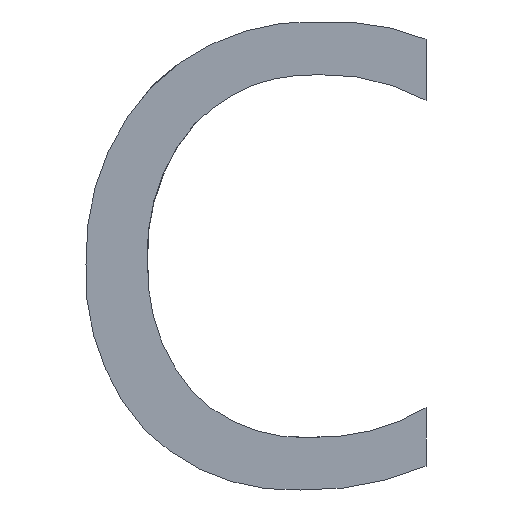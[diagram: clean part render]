
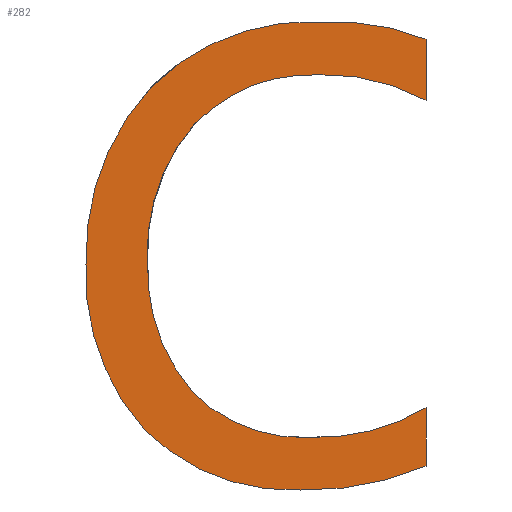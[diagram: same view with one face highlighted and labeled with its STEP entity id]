
A CAD part, front view. The second image highlights one B-rep face of the part: STEP entity #282.
In plain terms, the highlighted planar face has unit normal (0, -1, 0).
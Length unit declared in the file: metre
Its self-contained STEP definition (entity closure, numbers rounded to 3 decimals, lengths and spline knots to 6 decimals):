
#36=LINE('',#570,#44);
#37=LINE('',#584,#45);
#44=VECTOR('',#480,1.);
#45=VECTOR('',#493,1.);
#64=ORIENTED_EDGE('',*,*,#148,.T.);
#65=ORIENTED_EDGE('',*,*,#149,.T.);
#66=ORIENTED_EDGE('',*,*,#150,.T.);
#67=ORIENTED_EDGE('',*,*,#151,.T.);
#68=ORIENTED_EDGE('',*,*,#152,.T.);
#69=ORIENTED_EDGE('',*,*,#153,.T.);
#70=ORIENTED_EDGE('',*,*,#154,.T.);
#71=ORIENTED_EDGE('',*,*,#155,.T.);
#72=ORIENTED_EDGE('',*,*,#156,.T.);
#73=ORIENTED_EDGE('',*,*,#157,.T.);
#74=ORIENTED_EDGE('',*,*,#158,.T.);
#75=ORIENTED_EDGE('',*,*,#159,.T.);
#76=ORIENTED_EDGE('',*,*,#160,.T.);
#77=ORIENTED_EDGE('',*,*,#161,.T.);
#148=EDGE_CURVE('',#190,#191,#216,.T.);
#149=EDGE_CURVE('',#191,#192,#36,.T.);
#150=EDGE_CURVE('',#192,#193,#217,.T.);
#151=EDGE_CURVE('',#193,#194,#218,.T.);
#152=EDGE_CURVE('',#194,#195,#219,.T.);
#153=EDGE_CURVE('',#195,#196,#220,.F.);
#154=EDGE_CURVE('',#196,#197,#221,.T.);
#155=EDGE_CURVE('',#197,#198,#222,.T.);
#156=EDGE_CURVE('',#198,#199,#37,.T.);
#157=EDGE_CURVE('',#199,#200,#223,.T.);
#158=EDGE_CURVE('',#200,#201,#224,.T.);
#159=EDGE_CURVE('',#201,#202,#225,.T.);
#160=EDGE_CURVE('',#202,#203,#226,.T.);
#161=EDGE_CURVE('',#203,#190,#227,.T.);
#190=VERTEX_POINT('',#568);
#191=VERTEX_POINT('',#569);
#192=VERTEX_POINT('',#571);
#193=VERTEX_POINT('',#573);
#194=VERTEX_POINT('',#575);
#195=VERTEX_POINT('',#577);
#196=VERTEX_POINT('',#579);
#197=VERTEX_POINT('',#581);
#198=VERTEX_POINT('',#583);
#199=VERTEX_POINT('',#585);
#200=VERTEX_POINT('',#587);
#201=VERTEX_POINT('',#589);
#202=VERTEX_POINT('',#591);
#203=VERTEX_POINT('',#593);
#216=CIRCLE('',#420,0.000133);
#217=CIRCLE('',#421,0.000088);
#218=CIRCLE('',#422,0.000068);
#219=CIRCLE('',#423,0.000079);
#220=CIRCLE('',#424,0.000088);
#221=CIRCLE('',#425,0.000066);
#222=CIRCLE('',#426,0.000095);
#223=CIRCLE('',#427,0.000098);
#224=CIRCLE('',#428,0.000099);
#225=CIRCLE('',#429,0.000103);
#226=CIRCLE('',#430,0.000105);
#227=CIRCLE('',#431,0.000088);
#229=EDGE_LOOP('',(#64,#65,#66,#67,#68,#69,#70,#71,#72,#73,#74,#75,#76,
#77));
#245=FACE_BOUND('',#229,.T.);
#261=PLANE('',#419);
#282=ADVANCED_FACE('',(#245),#261,.T.);
#419=AXIS2_PLACEMENT_3D('',#566,#476,#477);
#420=AXIS2_PLACEMENT_3D('',#567,#478,#479);
#421=AXIS2_PLACEMENT_3D('',#572,#481,#482);
#422=AXIS2_PLACEMENT_3D('',#574,#483,#484);
#423=AXIS2_PLACEMENT_3D('',#576,#485,#486);
#424=AXIS2_PLACEMENT_3D('',#578,#487,#488);
#425=AXIS2_PLACEMENT_3D('',#580,#489,#490);
#426=AXIS2_PLACEMENT_3D('',#582,#491,#492);
#427=AXIS2_PLACEMENT_3D('',#586,#494,#495);
#428=AXIS2_PLACEMENT_3D('',#588,#496,#497);
#429=AXIS2_PLACEMENT_3D('',#590,#498,#499);
#430=AXIS2_PLACEMENT_3D('',#592,#500,#501);
#431=AXIS2_PLACEMENT_3D('',#594,#502,#503);
#476=DIRECTION('',(0.,-1.,0.));
#477=DIRECTION('',(0.,0.,1.));
#478=DIRECTION('',(0.,-1.,0.));
#479=DIRECTION('',(0.,0.,-1.));
#480=DIRECTION('',(0.,0.,1.));
#481=DIRECTION('',(0.,1.,0.));
#482=DIRECTION('',(0.,0.,1.));
#483=DIRECTION('',(0.,1.,0.));
#484=DIRECTION('',(0.,0.,1.));
#485=DIRECTION('',(0.,1.,0.));
#486=DIRECTION('',(0.,0.,1.));
#487=DIRECTION('',(0.,-1.,0.));
#488=DIRECTION('',(0.,0.,-1.));
#489=DIRECTION('',(0.,1.,0.));
#490=DIRECTION('',(0.,0.,1.));
#491=DIRECTION('',(0.,1.,0.));
#492=DIRECTION('',(0.,0.,1.));
#493=DIRECTION('',(0.,0.,1.));
#494=DIRECTION('',(0.,-1.,0.));
#495=DIRECTION('',(0.,0.,-1.));
#496=DIRECTION('',(0.,-1.,0.));
#497=DIRECTION('',(0.,0.,-1.));
#498=DIRECTION('',(0.,-1.,0.));
#499=DIRECTION('',(0.,0.,-1.));
#500=DIRECTION('',(0.,-1.,0.));
#501=DIRECTION('',(0.,0.,-1.));
#502=DIRECTION('',(0.,-1.,0.));
#503=DIRECTION('',(0.,0.,-1.));
#566=CARTESIAN_POINT('',(-0.145027,-0.023259,0.012449));
#567=CARTESIAN_POINT('',(-0.145054,-0.023259,0.012579));
#568=CARTESIAN_POINT('',(-0.145057,-0.023259,0.012446));
#569=CARTESIAN_POINT('',(-0.145003,-0.023259,0.012456));
#570=CARTESIAN_POINT('',(-0.145003,-0.023259,0.012481));
#571=CARTESIAN_POINT('',(-0.145003,-0.023259,0.012481));
#572=CARTESIAN_POINT('',(-0.145048,-0.023259,0.012557));
#573=CARTESIAN_POINT('',(-0.145053,-0.023259,0.012468));
#574=CARTESIAN_POINT('',(-0.145055,-0.023259,0.012537));
#575=CARTESIAN_POINT('',(-0.145104,-0.023259,0.012489));
#576=CARTESIAN_POINT('',(-0.145044,-0.023259,0.01254));
#577=CARTESIAN_POINT('',(-0.145122,-0.023259,0.012544));
#578=CARTESIAN_POINT('',(-0.145035,-0.023259,0.012547));
#579=CARTESIAN_POINT('',(-0.145102,-0.023259,0.012603));
#580=CARTESIAN_POINT('',(-0.145054,-0.023259,0.012558));
#581=CARTESIAN_POINT('',(-0.145048,-0.023259,0.012624));
#582=CARTESIAN_POINT('',(-0.145048,-0.023259,0.012529));
#583=CARTESIAN_POINT('',(-0.145003,-0.023259,0.012613));
#584=CARTESIAN_POINT('',(-0.145003,-0.023259,0.012639));
#585=CARTESIAN_POINT('',(-0.145003,-0.023259,0.012639));
#586=CARTESIAN_POINT('',(-0.14504,-0.023259,0.012549));
#587=CARTESIAN_POINT('',(-0.145049,-0.023259,0.012647));
#588=CARTESIAN_POINT('',(-0.145052,-0.023259,0.012548));
#589=CARTESIAN_POINT('',(-0.145121,-0.023259,0.012619));
#590=CARTESIAN_POINT('',(-0.145045,-0.023259,0.012548));
#591=CARTESIAN_POINT('',(-0.145149,-0.023259,0.012543));
#592=CARTESIAN_POINT('',(-0.145045,-0.023259,0.01254));
#593=CARTESIAN_POINT('',(-0.145124,-0.023259,0.012472));
#594=CARTESIAN_POINT('',(-0.145061,-0.023259,0.012533));
